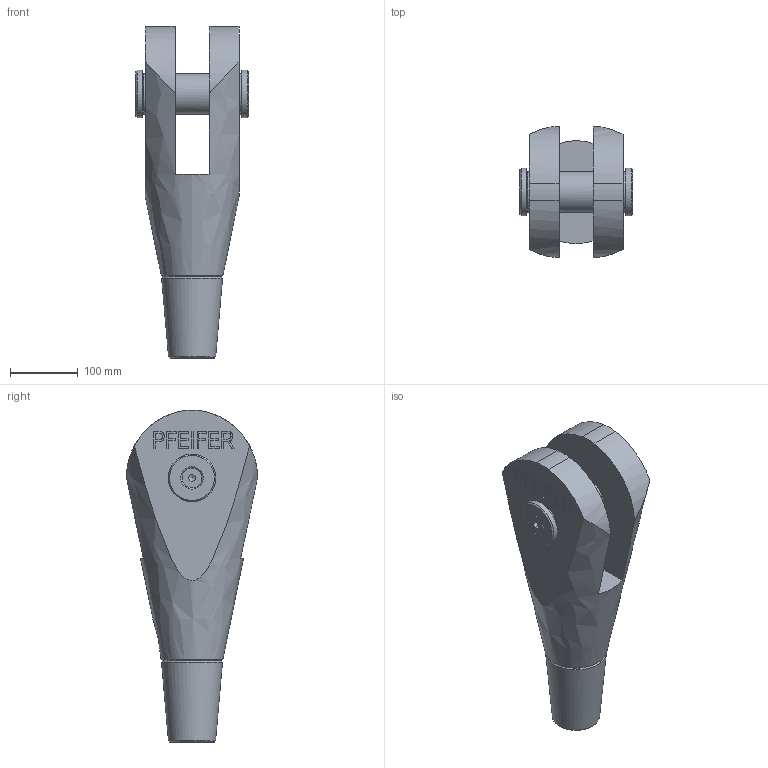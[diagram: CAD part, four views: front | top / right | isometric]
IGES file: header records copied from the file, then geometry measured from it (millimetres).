
Global section: file name: 520-060-GAK; native system: Autodesk Inventor 2016; preprocessor: unknown; author: Administrator; date: 20200625.075749; units: centimetre
Bounding box: 166.3 x 193.09 x 488.39 mm (x, y, z)
Volume: 5086017.3 mm3; surface area: 342543.9 mm2
Topology: 2 solids, 4 shells, 186 faces, 492 edges, 329 vertices
Faces by surface type: bspline 186
